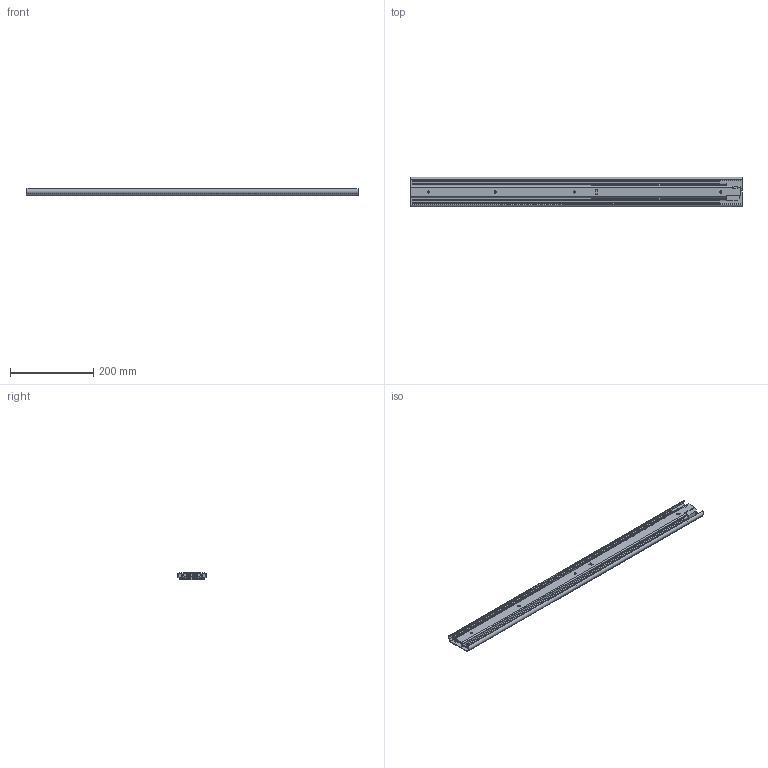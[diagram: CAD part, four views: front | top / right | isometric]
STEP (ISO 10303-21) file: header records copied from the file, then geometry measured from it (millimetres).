
FILE_DESCRIPTION( ( 'STEP AP203' ), '1' );
FILE_NAME( 'C:/Temp/Ganter_Step_05_03_2020/data/3_8/gn1432/Telescopic slide GN 1432-800-B-2-ZB (0).stp', '2020-03-12T15:26:41', ( 'License CC BY-ND 4.0' ), ( 'CADENAS' ), ' ', 'PARTsolutions', ' ' );
FILE_SCHEMA( ( 'CONFIG_CONTROL_DESIGN' ) );
Length unit declared in the file: millimetre
Products named in the file (4): Telescopic slide GN 1432-800-B-2-ZB (0); _Telescopic slide GN 1432-800-B-2-ZB (0)-1; _Telescopic slide GN 1432-800-B-2-ZB (0)-2; _Telescopic slide GN 1432-800-B-2-ZB (0)-3
Assembly tree (3 placements, depth 2):
  Telescopic slide GN 1432-800-B-2-ZB (0)
    _Telescopic slide GN 1432-800-B-2-ZB (0)-1
    _Telescopic slide GN 1432-800-B-2-ZB (0)-2
    _Telescopic slide GN 1432-800-B-2-ZB (0)-3
Bounding box: 800 x 70.88 x 18.4 mm (x, y, z)
Volume: 473803.9 mm3; surface area: 447119.5 mm2
Topology: 3 solids, 3 shells, 309 faces, 897 edges, 588 vertices
Faces by surface type: plane 179, cylinder 120, cone 10
Full cylindrical faces by diameter (mm): 5 x4, 6.5 x6, 11 x3
Entity records: 10270 total; most frequent: CARTESIAN_POINT 1789, DIRECTION 1751, ORIENTED_EDGE 1742, EDGE_CURVE 871, LINE 605, VECTOR 605, VERTEX_POINT 585, AXIS2_PLACEMENT_3D 573
